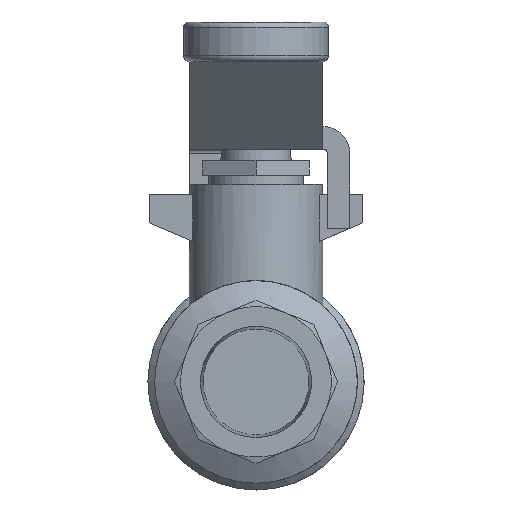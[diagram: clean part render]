
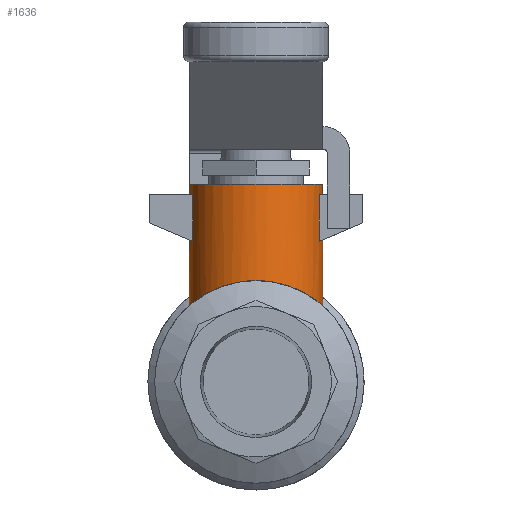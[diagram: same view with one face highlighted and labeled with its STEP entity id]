
A CAD part, left-side view. The second image highlights one B-rep face of the part: STEP entity #1636.
In plain terms, the highlighted cylindrical face has radius 7.493 mm (diameter 14.986 mm), a full revolution.
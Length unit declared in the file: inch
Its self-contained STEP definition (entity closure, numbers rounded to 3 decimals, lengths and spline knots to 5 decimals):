
#1231=CARTESIAN_POINT('',(0.771,0.27962,0.8275));
#1232=VERTEX_POINT('',#1231);
#1241=CARTESIAN_POINT('',(0.959,0.27962,0.8275));
#1242=VERTEX_POINT('',#1241);
#1243=CARTESIAN_POINT('',(0.865,0.0,0.8275));
#1244=DIRECTION('',(0.0,0.0,1.0));
#1245=DIRECTION('',(1.0,0.0,0.0));
#1246=AXIS2_PLACEMENT_3D('',#1243,#1244,#1245);
#1247=CIRCLE('',#1246,0.295);
#1248=EDGE_CURVE('',#1242,#1232,#1247,.T.);
#1303=CARTESIAN_POINT('',(0.771,0.27962,0.62091));
#1304=VERTEX_POINT('',#1303);
#1312=CARTESIAN_POINT('',(0.959,0.27962,0.62091));
#1313=VERTEX_POINT('',#1312);
#1320=CARTESIAN_POINT('',(0.865,0.0,0.50107));
#1321=DIRECTION('',(0.0,0.394,-0.919));
#1322=DIRECTION('',(0.0,0.919,0.394));
#1323=AXIS2_PLACEMENT_3D('',#1320,#1321,#1322);
#1324=ELLIPSE('',#1323,0.32095,0.295);
#1325=EDGE_CURVE('',#1304,#1313,#1324,.T.);
#1338=CARTESIAN_POINT('',(0.771,0.27962,0.8275));
#1339=DIRECTION('',(0.0,0.0,-1.0));
#1340=VECTOR('',#1339,0.20659);
#1341=LINE('',#1338,#1340);
#1342=EDGE_CURVE('',#1232,#1304,#1341,.T.);
#1355=CARTESIAN_POINT('',(0.959,0.27962,0.62091));
#1356=DIRECTION('',(0.0,0.0,1.0));
#1357=VECTOR('',#1356,0.20659);
#1358=LINE('',#1355,#1357);
#1359=EDGE_CURVE('',#1313,#1242,#1358,.T.);
#1369=CARTESIAN_POINT('',(0.771,-0.27962,0.8275));
#1370=VERTEX_POINT('',#1369);
#1387=CARTESIAN_POINT('',(0.959,-0.27962,0.8275));
#1388=VERTEX_POINT('',#1387);
#1395=CARTESIAN_POINT('',(0.865,0.0,0.8275));
#1396=DIRECTION('',(0.0,0.0,1.0));
#1397=DIRECTION('',(1.0,0.0,0.0));
#1398=AXIS2_PLACEMENT_3D('',#1395,#1396,#1397);
#1399=CIRCLE('',#1398,0.295);
#1400=EDGE_CURVE('',#1370,#1388,#1399,.T.);
#1441=CARTESIAN_POINT('',(0.771,-0.27962,0.62091));
#1442=VERTEX_POINT('',#1441);
#1449=CARTESIAN_POINT('',(0.959,-0.27962,0.62091));
#1450=VERTEX_POINT('',#1449);
#1451=CARTESIAN_POINT('',(0.865,0.0,0.50107));
#1452=DIRECTION('',(0.0,-0.394,-0.919));
#1453=DIRECTION('',(0.0,0.919,-0.394));
#1454=AXIS2_PLACEMENT_3D('',#1451,#1452,#1453);
#1455=ELLIPSE('',#1454,0.32095,0.295);
#1456=EDGE_CURVE('',#1450,#1442,#1455,.T.);
#1476=CARTESIAN_POINT('',(0.771,-0.27962,0.62091));
#1477=DIRECTION('',(0.0,0.0,1.0));
#1478=VECTOR('',#1477,0.20659);
#1479=LINE('',#1476,#1478);
#1480=EDGE_CURVE('',#1442,#1370,#1479,.T.);
#1491=CARTESIAN_POINT('',(0.959,-0.27962,0.8275));
#1492=DIRECTION('',(0.0,0.0,-1.0));
#1493=VECTOR('',#1492,0.20659);
#1494=LINE('',#1491,#1493);
#1495=EDGE_CURVE('',#1388,#1450,#1494,.T.);
#1518=CARTESIAN_POINT('',(1.02,0.251,0.40621));
#1519=VERTEX_POINT('',#1518);
#1520=CARTESIAN_POINT('',(1.16,0.0,0.4775));
#1521=VERTEX_POINT('',#1520);
#1522=CARTESIAN_POINT('',(1.02,0.251,0.40621));
#1523=CARTESIAN_POINT('',(1.0399,0.23871,0.4138));
#1524=CARTESIAN_POINT('',(1.05797,0.22422,0.42194));
#1525=CARTESIAN_POINT('',(1.09912,0.18308,0.44192));
#1526=CARTESIAN_POINT('',(1.12169,0.1506,0.45466));
#1527=CARTESIAN_POINT('',(1.15215,0.07817,0.47253));
#1528=CARTESIAN_POINT('',(1.16,0.03816,0.4775));
#1529=CARTESIAN_POINT('',(1.16,0.,0.4775));
#1530=B_SPLINE_CURVE_WITH_KNOTS('',3,(#1522,#1523,#1524,#1525,#1526,#1527,#1528,#1529),.UNSPECIFIED.,.F.,.U.,(4,2,2,4),(0.16059,0.23068,0.34516,0.45964),.UNSPECIFIED.);
#1531=EDGE_CURVE('',#1519,#1521,#1530,.T.);
#1533=CARTESIAN_POINT('',(1.02,-0.251,0.40621));
#1534=VERTEX_POINT('',#1533);
#1535=CARTESIAN_POINT('',(1.16,0.,0.4775));
#1536=CARTESIAN_POINT('',(1.16,-0.03816,0.4775));
#1537=CARTESIAN_POINT('',(1.15215,-0.07817,0.47253));
#1538=CARTESIAN_POINT('',(1.12169,-0.1506,0.45466));
#1539=CARTESIAN_POINT('',(1.09912,-0.18308,0.44192));
#1540=CARTESIAN_POINT('',(1.05797,-0.22422,0.42194));
#1541=CARTESIAN_POINT('',(1.0399,-0.23871,0.4138));
#1542=CARTESIAN_POINT('',(1.02,-0.251,0.40621));
#1543=B_SPLINE_CURVE_WITH_KNOTS('',3,(#1535,#1536,#1537,#1538,#1539,#1540,#1541,#1542),.UNSPECIFIED.,.F.,.U.,(4,2,2,4),(0.45964,0.57412,0.6886,0.75868),.UNSPECIFIED.);
#1544=EDGE_CURVE('',#1521,#1534,#1543,.T.);
#1556=CARTESIAN_POINT('',(0.865,0.0,0.4775));
#1557=DIRECTION('',(0.0,0.0,1.0));
#1558=DIRECTION('',(1.0,0.0,0.0));
#1559=AXIS2_PLACEMENT_3D('',#1556,#1557,#1558);
#1560=CYLINDRICAL_SURFACE('',#1559,0.295);
#1561=CARTESIAN_POINT('',(1.16,0.0,0.8725));
#1562=VERTEX_POINT('',#1561);
#1563=CARTESIAN_POINT('',(0.865,0.0,0.8725));
#1564=DIRECTION('',(0.0,0.0,-1.0));
#1565=DIRECTION('',(1.0,0.0,0.0));
#1566=AXIS2_PLACEMENT_3D('',#1563,#1564,#1565);
#1567=CIRCLE('',#1566,0.295);
#1568=EDGE_CURVE('',#1562,#1562,#1567,.T.);
#1569=ORIENTED_EDGE('',*,*,#1568,.T.);
#1570=EDGE_LOOP('',(#1569));
#1571=FACE_OUTER_BOUND('',#1570,.T.);
#1572=ORIENTED_EDGE('',*,*,#1325,.T.);
#1573=ORIENTED_EDGE('',*,*,#1359,.T.);
#1574=ORIENTED_EDGE('',*,*,#1248,.T.);
#1575=ORIENTED_EDGE('',*,*,#1342,.T.);
#1576=EDGE_LOOP('',(#1572,#1573,#1574,#1575));
#1577=FACE_BOUND('',#1576,.T.);
#1578=ORIENTED_EDGE('',*,*,#1456,.T.);
#1579=ORIENTED_EDGE('',*,*,#1480,.T.);
#1580=ORIENTED_EDGE('',*,*,#1400,.T.);
#1581=ORIENTED_EDGE('',*,*,#1495,.T.);
#1582=EDGE_LOOP('',(#1578,#1579,#1580,#1581));
#1583=FACE_BOUND('',#1582,.T.);
#1584=ORIENTED_EDGE('',*,*,#1531,.F.);
#1585=CARTESIAN_POINT('',(0.99,0.26721,0.35897));
#1586=VERTEX_POINT('',#1585);
#1587=CARTESIAN_POINT('',(0.99,0.26721,0.35897));
#1588=CARTESIAN_POINT('',(0.99974,0.26265,0.37449));
#1589=CARTESIAN_POINT('',(1.00983,0.25728,0.39038));
#1590=CARTESIAN_POINT('',(1.02,0.251,0.40621));
#1591=B_SPLINE_CURVE_WITH_KNOTS('',3,(#1587,#1588,#1589,#1590),.UNSPECIFIED.,.F.,.U.,(4,4),(0.3836,0.43908),.UNSPECIFIED.);
#1592=EDGE_CURVE('',#1586,#1519,#1591,.T.);
#1593=ORIENTED_EDGE('',*,*,#1592,.F.);
#1594=CARTESIAN_POINT('',(0.99,-0.26721,0.35897));
#1595=VERTEX_POINT('',#1594);
#1596=CARTESIAN_POINT('',(0.99,-0.26721,0.35897));
#1597=CARTESIAN_POINT('',(0.98657,-0.26881,0.35777));
#1598=CARTESIAN_POINT('',(0.98311,-0.27035,0.35661));
#1599=CARTESIAN_POINT('',(0.94361,-0.28701,0.34387));
#1600=CARTESIAN_POINT('',(0.90374,-0.295,0.3365));
#1601=CARTESIAN_POINT('',(0.82626,-0.295,0.3365));
#1602=CARTESIAN_POINT('',(0.78639,-0.28701,0.34387));
#1603=CARTESIAN_POINT('',(0.71438,-0.25664,0.36709));
#1604=CARTESIAN_POINT('',(0.68207,-0.23426,0.38238));
#1605=CARTESIAN_POINT('',(0.631,-0.1832,0.40929));
#1606=CARTESIAN_POINT('',(0.60845,-0.15082,0.42298));
#1607=CARTESIAN_POINT('',(0.57792,-0.07843,0.44216));
#1608=CARTESIAN_POINT('',(0.57,-0.03834,0.4475));
#1609=CARTESIAN_POINT('',(0.57,0.03834,0.4475));
#1610=CARTESIAN_POINT('',(0.57792,0.07843,0.44216));
#1611=CARTESIAN_POINT('',(0.60845,0.15082,0.42298));
#1612=CARTESIAN_POINT('',(0.631,0.1832,0.40929));
#1613=CARTESIAN_POINT('',(0.68207,0.23426,0.38238));
#1614=CARTESIAN_POINT('',(0.71438,0.25664,0.36709));
#1615=CARTESIAN_POINT('',(0.78639,0.28701,0.34387));
#1616=CARTESIAN_POINT('',(0.82626,0.295,0.3365));
#1617=CARTESIAN_POINT('',(0.865,0.295,0.3365));
#1618=CARTESIAN_POINT('',(0.90374,0.295,0.3365));
#1619=CARTESIAN_POINT('',(0.94361,0.28701,0.34387));
#1620=CARTESIAN_POINT('',(0.98311,0.27035,0.35661));
#1621=CARTESIAN_POINT('',(0.98657,0.26881,0.35777));
#1622=CARTESIAN_POINT('',(0.99,0.26721,0.35897));
#1623=B_SPLINE_CURVE_WITH_KNOTS('',3,(#1596,#1597,#1598,#1599,#1600,#1601,#1602,#1603,#1604,#1605,#1606,#1607,#1608,#1609,#1610,#1611,#1612,#1613,#1614,#1615,#1616,#1617,#1618,#1619,#1620,#1621,#1622),.UNSPECIFIED.,.F.,.U.,(4,2,2,2,2,2,2,2,2,2,3,2,4),(-1.05236,-1.04107,-0.92486,-0.80865,-0.69244,-0.57744,-0.46243,-0.34743,-0.23242,-0.11621,0.0,0.11621,0.1275),.UNSPECIFIED.);
#1624=EDGE_CURVE('',#1595,#1586,#1623,.T.);
#1625=ORIENTED_EDGE('',*,*,#1624,.F.);
#1626=CARTESIAN_POINT('',(1.02,-0.251,0.40621));
#1627=CARTESIAN_POINT('',(1.00983,-0.25728,0.39038));
#1628=CARTESIAN_POINT('',(0.99974,-0.26265,0.37449));
#1629=CARTESIAN_POINT('',(0.99,-0.26721,0.35897));
#1630=B_SPLINE_CURVE_WITH_KNOTS('',3,(#1626,#1627,#1628,#1629),.UNSPECIFIED.,.F.,.U.,(4,4),(1.16378,1.21926),.UNSPECIFIED.);
#1631=EDGE_CURVE('',#1534,#1595,#1630,.T.);
#1632=ORIENTED_EDGE('',*,*,#1631,.F.);
#1633=ORIENTED_EDGE('',*,*,#1544,.F.);
#1634=EDGE_LOOP('',(#1584,#1593,#1625,#1632,#1633));
#1635=FACE_BOUND('',#1634,.T.);
#1636=ADVANCED_FACE('',(#1571,#1577,#1583,#1635),#1560,.T.);
